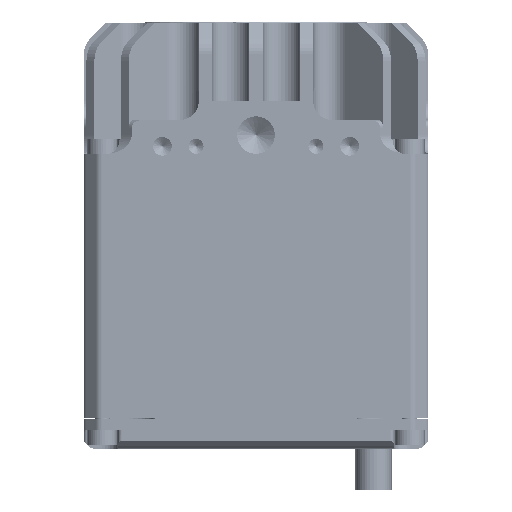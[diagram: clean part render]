
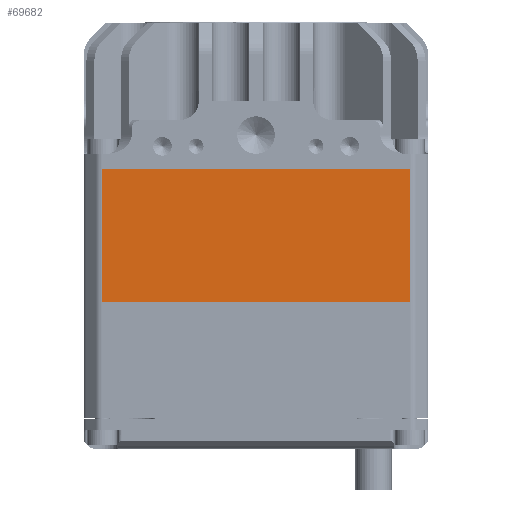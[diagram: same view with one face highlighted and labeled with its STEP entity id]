
A CAD part, front view. The second image highlights one B-rep face of the part: STEP entity #69682.
In plain terms, the highlighted planar face has unit normal (0, -1, 0) as drawn and (0, 0, 1) by its records, which use the part's own axes.
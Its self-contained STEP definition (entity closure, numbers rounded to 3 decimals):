
#68996 = EDGE_CURVE ( 'NONE', #142810, #496257, #382220, .T. ) ;
#69682 = ADVANCED_FACE ( 'NONE', ( #452374 ), #201555, .F. ) ;
#98647 = ORIENTED_EDGE ( 'NONE', *, *, #225376, .F. ) ;
#109536 = CARTESIAN_POINT ( 'NONE',  ( 20.586, 17.7, 23. ) ) ;
#110832 = CARTESIAN_POINT ( 'NONE',  ( -23., 14.4, 23. ) ) ;
#126517 = ORIENTED_EDGE ( 'NONE', *, *, #68996, .T. ) ;
#142810 = VERTEX_POINT ( 'NONE', #372113 ) ;
#150165 = VECTOR ( 'NONE', #592345, 1000. ) ;
#160395 = EDGE_CURVE ( 'NONE', #213366, #142810, #346199, .T. ) ;
#186723 = CARTESIAN_POINT ( 'NONE',  ( 23., 17.7, 23. ) ) ;
#201555 = PLANE ( 'NONE',  #366706 ) ;
#210007 = CARTESIAN_POINT ( 'NONE',  ( -20.586, 17.7, 23. ) ) ;
#213366 = VERTEX_POINT ( 'NONE', #283388 ) ;
#225376 = EDGE_CURVE ( 'NONE', #372827, #496257, #251377, .T. ) ;
#244641 = DIRECTION ( 'NONE',  ( 0., 1., 0. ) ) ;
#251377 = LINE ( 'NONE', #186723, #150165 ) ;
#256383 = DIRECTION ( 'NONE',  ( 1., 0., 0. ) ) ;
#268148 = ORIENTED_EDGE ( 'NONE', *, *, #340731, .T. ) ;
#283388 = CARTESIAN_POINT ( 'NONE',  ( -20.586, 0., 23. ) ) ;
#340731 = EDGE_CURVE ( 'NONE', #372827, #213366, #505608, .T. ) ;
#346199 = LINE ( 'NONE', #438354, #389577 ) ;
#366706 = AXIS2_PLACEMENT_3D ( 'NONE', #110832, #520490, #572744 ) ;
#368825 = DIRECTION ( 'NONE',  ( 0., -1., 0. ) ) ;
#372113 = CARTESIAN_POINT ( 'NONE',  ( 20.586, 0., 23. ) ) ;
#372827 = VERTEX_POINT ( 'NONE', #210007 ) ;
#374632 = VECTOR ( 'NONE', #244641, 1000. ) ;
#382220 = LINE ( 'NONE', #109536, #374632 ) ;
#389577 = VECTOR ( 'NONE', #256383, 1000. ) ;
#401436 = ORIENTED_EDGE ( 'NONE', *, *, #160395, .T. ) ;
#406617 = CARTESIAN_POINT ( 'NONE',  ( 20.586, 17.7, 23. ) ) ;
#438354 = CARTESIAN_POINT ( 'NONE',  ( -23., 0., 23. ) ) ;
#452374 = FACE_OUTER_BOUND ( 'NONE', #503391, .T. ) ;
#496257 = VERTEX_POINT ( 'NONE', #406617 ) ;
#503391 = EDGE_LOOP ( 'NONE', ( #401436, #126517, #98647, #268148 ) ) ;
#505608 = LINE ( 'NONE', #548249, #520085 ) ;
#520085 = VECTOR ( 'NONE', #368825, 1000. ) ;
#520490 = DIRECTION ( 'NONE',  ( 0., 0., -1. ) ) ;
#548249 = CARTESIAN_POINT ( 'NONE',  ( -20.586, 0., 23. ) ) ;
#572744 = DIRECTION ( 'NONE',  ( -1., 0., 0. ) ) ;
#592345 = DIRECTION ( 'NONE',  ( 1., 0., 0. ) ) ;
